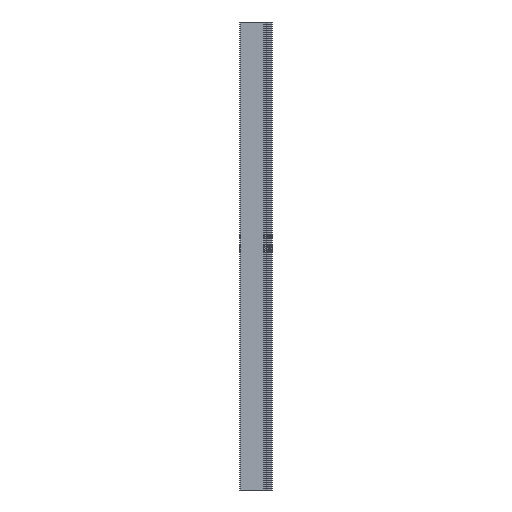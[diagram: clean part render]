
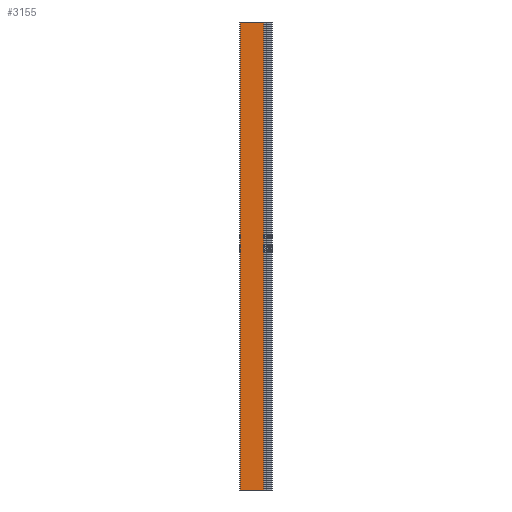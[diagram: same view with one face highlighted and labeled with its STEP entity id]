
A CAD part, front view. The second image highlights one B-rep face of the part: STEP entity #3155.
In plain terms, the highlighted planar face has unit normal (0, -1, 0).
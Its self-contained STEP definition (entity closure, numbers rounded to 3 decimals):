
#5 = DIRECTION ( 'NONE',  ( 1., 0., 0. ) ) ;
#203 = VERTEX_POINT ( 'NONE', #4016 ) ;
#207 = EDGE_CURVE ( 'NONE', #4088, #203, #539, .T. ) ;
#487 = CARTESIAN_POINT ( 'NONE',  ( -77.5, 3.06, -1219.2 ) ) ;
#539 = LINE ( 'NONE', #4472, #1156 ) ;
#767 = LINE ( 'NONE', #2976, #1184 ) ;
#1156 = VECTOR ( 'NONE', #1403, 1000. ) ;
#1184 = VECTOR ( 'NONE', #5, 1000. ) ;
#1403 = DIRECTION ( 'NONE',  ( 0., 0., 1. ) ) ;
#1513 = ORIENTED_EDGE ( 'NONE', *, *, #2298, .T. ) ;
#1660 = VECTOR ( 'NONE', #2831, 1000. ) ;
#2296 = EDGE_LOOP ( 'NONE', ( #5241, #3394, #1513, #3255 ) ) ;
#2298 = EDGE_CURVE ( 'NONE', #4774, #4088, #767, .T. ) ;
#2369 = CARTESIAN_POINT ( 'NONE',  ( -77.5, 3.06, 1219.2 ) ) ;
#2829 = EDGE_CURVE ( 'NONE', #4878, #4774, #3244, .T. ) ;
#2831 = DIRECTION ( 'NONE',  ( 1., 0., 0. ) ) ;
#2852 = CARTESIAN_POINT ( 'NONE',  ( -80., 3.06, 1219.2 ) ) ;
#2976 = CARTESIAN_POINT ( 'NONE',  ( -80., 3.06, -1219.2 ) ) ;
#3155 = ADVANCED_FACE ( 'NONE', ( #4078 ), #3301, .F. ) ;
#3244 = LINE ( 'NONE', #3794, #4465 ) ;
#3245 = LINE ( 'NONE', #5426, #1660 ) ;
#3255 = ORIENTED_EDGE ( 'NONE', *, *, #207, .T. ) ;
#3301 = PLANE ( 'NONE',  #3647 ) ;
#3394 = ORIENTED_EDGE ( 'NONE', *, *, #2829, .T. ) ;
#3647 = AXIS2_PLACEMENT_3D ( 'NONE', #2852, #4635, #5477 ) ;
#3794 = CARTESIAN_POINT ( 'NONE',  ( -77.5, 3.06, 1219.2 ) ) ;
#3959 = EDGE_CURVE ( 'NONE', #4878, #203, #3245, .T. ) ;
#4016 = CARTESIAN_POINT ( 'NONE',  ( 45.253, 3.06, 1219.2 ) ) ;
#4078 = FACE_OUTER_BOUND ( 'NONE', #2296, .T. ) ;
#4088 = VERTEX_POINT ( 'NONE', #4337 ) ;
#4337 = CARTESIAN_POINT ( 'NONE',  ( 45.253, 3.06, -1219.2 ) ) ;
#4465 = VECTOR ( 'NONE', #5509, 1000. ) ;
#4472 = CARTESIAN_POINT ( 'NONE',  ( 45.253, 3.06, 1219.2 ) ) ;
#4635 = DIRECTION ( 'NONE',  ( 0., 1., 0. ) ) ;
#4774 = VERTEX_POINT ( 'NONE', #487 ) ;
#4878 = VERTEX_POINT ( 'NONE', #2369 ) ;
#5241 = ORIENTED_EDGE ( 'NONE', *, *, #3959, .F. ) ;
#5426 = CARTESIAN_POINT ( 'NONE',  ( -80., 3.06, 1219.2 ) ) ;
#5477 = DIRECTION ( 'NONE',  ( 0., 0., 1. ) ) ;
#5509 = DIRECTION ( 'NONE',  ( 0., 0., -1. ) ) ;
